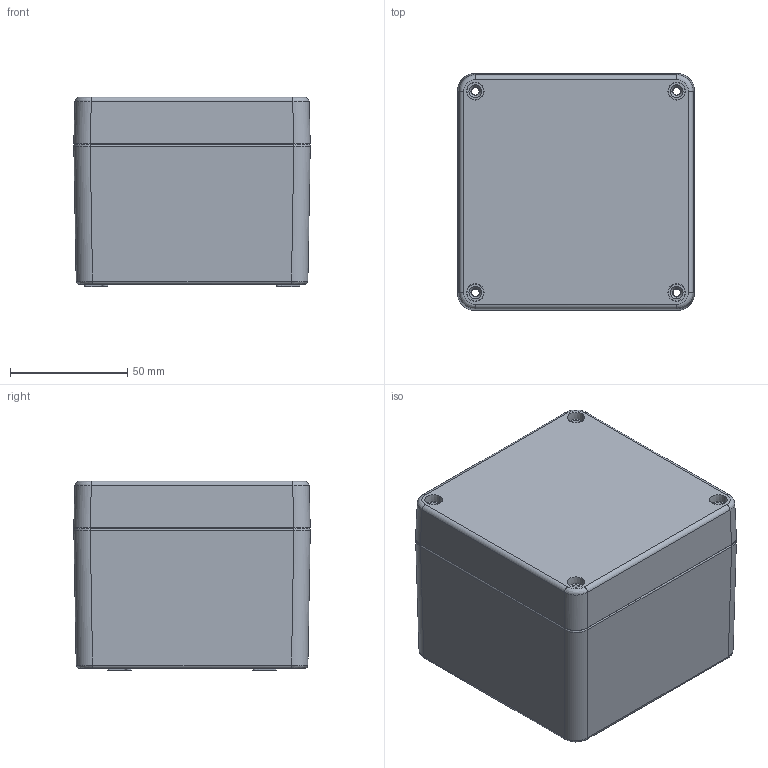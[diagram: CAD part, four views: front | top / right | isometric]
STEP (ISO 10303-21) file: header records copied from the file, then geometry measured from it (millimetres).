
FILE_DESCRIPTION (( 'STEP AP203' ), '1' );
FILE_NAME ('ALU ASSY 10010080.STEP', '2024-08-27T07:21:08', ( '' ), ( '' ), 'SwSTEP 2.0', 'SolidWorks 2018', '' );
FILE_SCHEMA (( 'CONFIG_CONTROL_DESIGN' ));
Length unit declared in the file: millimetre
Products named in the file (3): ALU BASE 10010080; ALU LID 10010080; ALU ASSY 10010080
Assembly tree (2 placements, depth 2):
  ALU ASSY 10010080
    ALU BASE 10010080
    ALU LID 10010080
Bounding box: 100.99 x 101 x 81 mm (x, y, z)
Volume: 228453.6 mm3; surface area: 109590.3 mm2
Topology: 2 solids, 2 shells, 708 faces, 1669 edges, 1012 vertices
Faces by surface type: cylinder 262, plane 235, bspline 133, cone 78
Entity records: 27795 total; most frequent: CARTESIAN_POINT 12520, ORIENTED_EDGE 3312, DIRECTION 2704, EDGE_CURVE 1656, VERTEX_POINT 1012, AXIS2_PLACEMENT_3D 934, VECTOR 836, LINE 836
